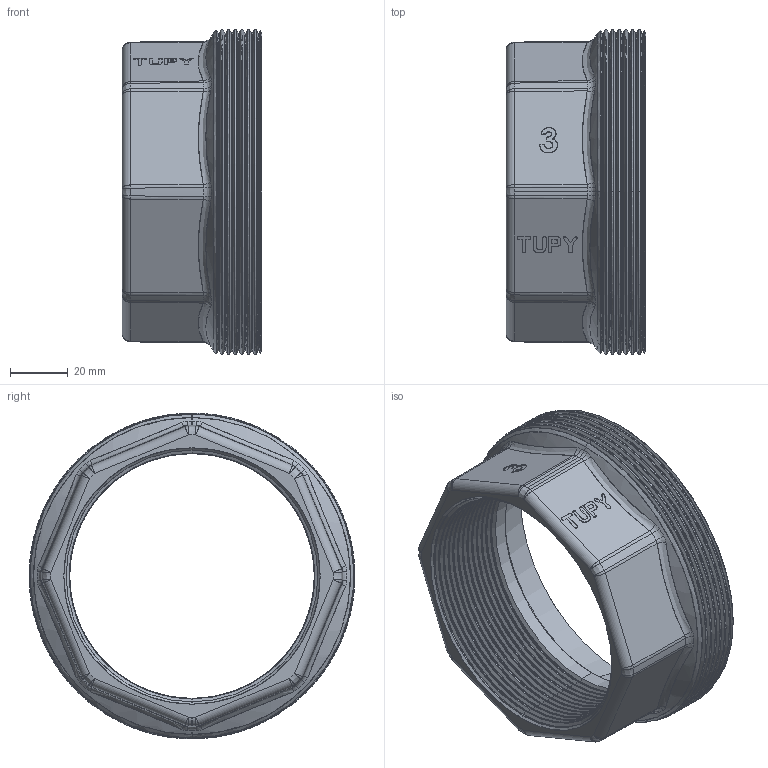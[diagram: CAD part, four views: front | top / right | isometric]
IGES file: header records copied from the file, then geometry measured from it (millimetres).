
Start section: SolidWorks IGES file using analytic representation for surfaces
Global section: file name: C:\Users\alan.martins\Desktop\Nova pasta\12-77-012.IGS; native system: SolidWorks 2012; preprocessor: SolidWorks 2012; author: alan.martins; date: 160323.151734; units: millimetre
Bounding box: 48.5 x 113 x 112.99 mm (x, y, z)
Surface area: 44505.2 mm2 (no closed solid volume)
Topology: 0 solids, 0 shells, 397 faces, 2519 edges, 2519 vertices
Faces by surface type: bspline 270, revolution 127
